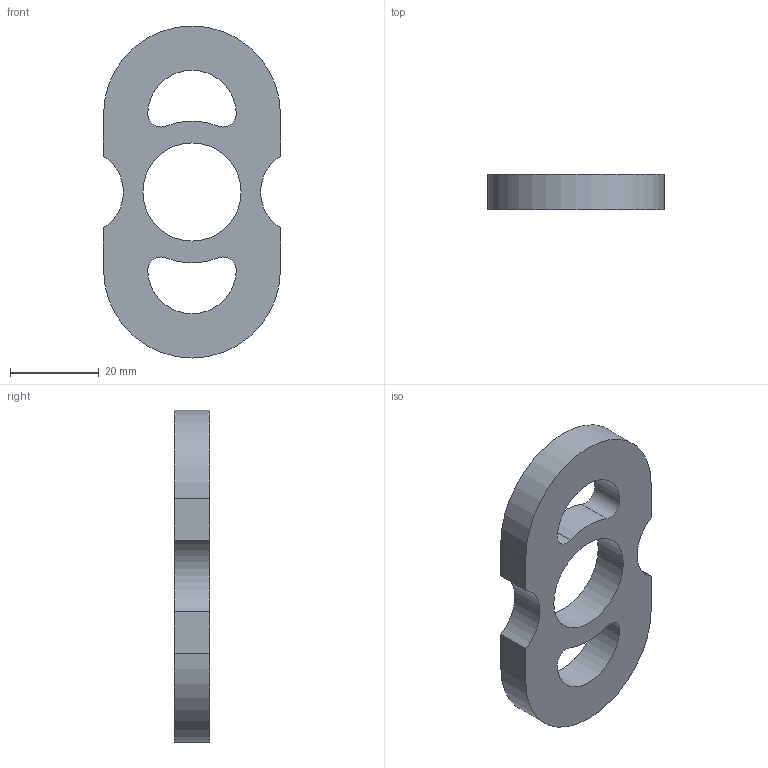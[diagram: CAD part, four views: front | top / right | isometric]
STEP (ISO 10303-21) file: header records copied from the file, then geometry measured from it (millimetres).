
FILE_DESCRIPTION(/* description */ (''),/* implementation_level */ '2;1');
FILE_NAME(/* name */ 'C:/Users/caleb/Downloads/spinner for tormach/spinner.stp',/* time_stamp */ '2017-03-20T11:48:59-05:00',/* author */ (''),/* organization */ (''),/* preprocessor_version */ 'ST-DEVELOPER v16.5',/* originating_system */ 'Autodesk Translation Framework v5.2.0.2920',/* authorisation */ '');
FILE_SCHEMA (('AUTOMOTIVE_DESIGN { 1 0 10303 214 3 1 1 }'));
Length unit declared in the file: millimetre
Products named in the file (3): Untitled v6; Component1; Component2
Assembly tree (2 placements, depth 2):
  Untitled v6
    Component1
    Component2
Bounding box: 40 x 8 x 75 mm (x, y, z)
Volume: 14169.7 mm3; surface area: 6592.9 mm2
Topology: 1 solids, 1 shells, 19 faces, 51 edges, 34 vertices
Faces by surface type: cylinder 13, plane 6
Full cylindrical faces by diameter (mm): 22.18 x1
Entity records: 680 total; most frequent: DIRECTION 124, CARTESIAN_POINT 108, ORIENTED_EDGE 100, EDGE_CURVE 50, AXIS2_PLACEMENT_3D 50, VERTEX_POINT 34, EDGE_LOOP 26, CIRCLE 26
